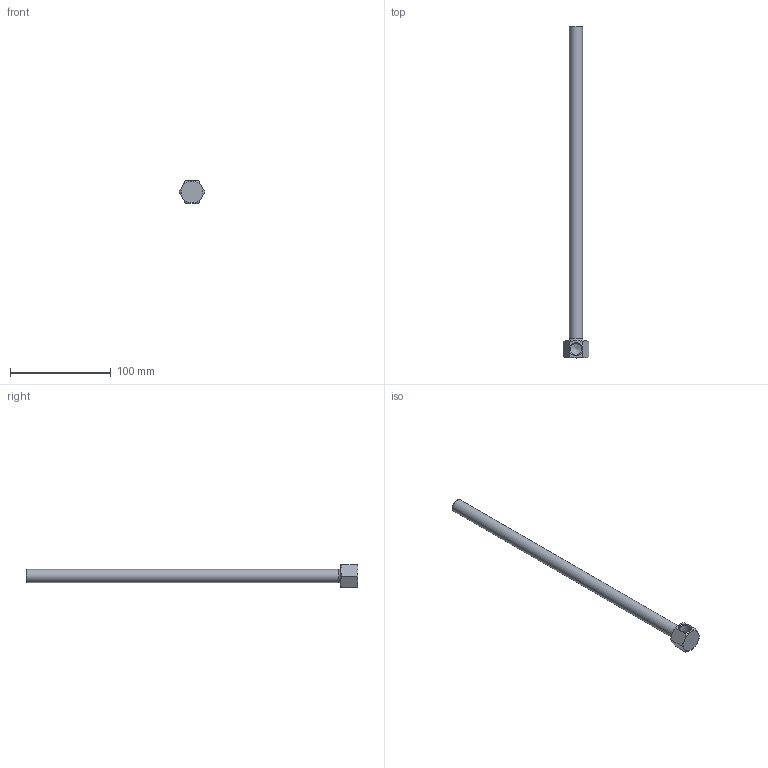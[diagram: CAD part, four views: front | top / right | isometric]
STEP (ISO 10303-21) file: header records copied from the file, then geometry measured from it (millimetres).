
FILE_DESCRIPTION(/* description */ (''),/* implementation_level */ '2;1');
FILE_NAME(/* name */ 'C:/Users/drich/Desktop/14B-13 v1.step',/* time_stamp */ '2019-12-29T15:19:17-06:00',/* author */ (''),/* organization */ (''),/* preprocessor_version */ 'ST-DEVELOPER v18',/* originating_system */ 'Autodesk Translation Framework v8.12.0.6',/* authorisation */ '');
FILE_SCHEMA (('AUTOMOTIVE_DESIGN { 1 0 10303 214 3 1 1 }'));
Length unit declared in the file: inch
Products named in the file (1): 14B-13
Bounding box: 25.66 x 330.2 x 22.23 mm (x, y, z)
Volume: 28582.6 mm3; surface area: 23974.1 mm2
Topology: 1 solids, 1 shells, 20 faces, 55 edges, 36 vertices
Faces by surface type: plane 10, cone 6, cylinder 3, torus 1
Full cylindrical faces by diameter (mm): 8.712 x1, 11.668 x1, 13.032 x1
Entity records: 710 total; most frequent: CARTESIAN_POINT 197, ORIENTED_EDGE 108, DIRECTION 93, EDGE_CURVE 54, AXIS2_PLACEMENT_3D 38, VERTEX_POINT 36, EDGE_LOOP 22, FACE_OUTER_BOUND 20
